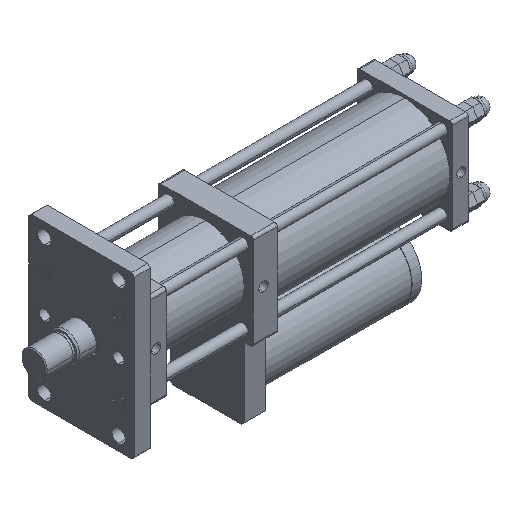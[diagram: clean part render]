
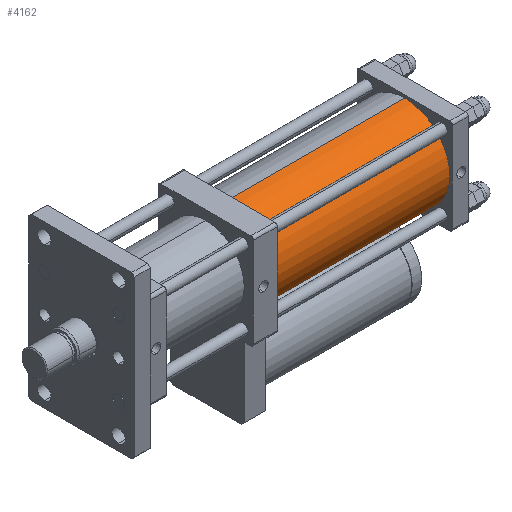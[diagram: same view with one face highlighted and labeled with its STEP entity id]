
A CAD part, isometric view. The second image highlights one B-rep face of the part: STEP entity #4162.
In plain terms, the highlighted cylindrical face has radius 85 mm (diameter 170 mm), a partial arc.
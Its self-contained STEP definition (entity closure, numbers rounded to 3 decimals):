
#18 = DIRECTION ( 'NONE',  ( -1., 0., 0. ) ) ;
#599 = VECTOR ( 'NONE', #18, 1000. ) ;
#834 = VERTEX_POINT ( 'NONE', #1098 ) ;
#1098 = CARTESIAN_POINT ( 'NONE',  ( 370., 0., -85. ) ) ;
#1164 = EDGE_CURVE ( 'NONE', #8887, #834, #1899, .T. ) ;
#1380 = DIRECTION ( 'NONE',  ( 1., 0., 0. ) ) ;
#1600 = CYLINDRICAL_SURFACE ( 'NONE', #7409, 85. ) ;
#1867 = LINE ( 'NONE', #7583, #5297 ) ;
#1899 = CIRCLE ( 'NONE', #2731, 85. ) ;
#2002 = CARTESIAN_POINT ( 'NONE',  ( 701., 0., 85. ) ) ;
#2035 = DIRECTION ( 'NONE',  ( 0., 0., 1. ) ) ;
#2692 = DIRECTION ( 'NONE',  ( -1., 0., 0. ) ) ;
#2731 = AXIS2_PLACEMENT_3D ( 'NONE', #6920, #2802, #7606 ) ;
#2802 = DIRECTION ( 'NONE',  ( 1., 0., 0. ) ) ;
#2810 = CARTESIAN_POINT ( 'NONE',  ( 701., 0., -85. ) ) ;
#2835 = CIRCLE ( 'NONE', #4732, 85. ) ;
#3198 = ORIENTED_EDGE ( 'NONE', *, *, #7287, .T. ) ;
#3505 = ORIENTED_EDGE ( 'NONE', *, *, #1164, .T. ) ;
#3855 = ORIENTED_EDGE ( 'NONE', *, *, #5192, .F. ) ;
#4162 = ADVANCED_FACE ( 'NONE', ( #7073 ), #1600, .T. ) ;
#4732 = AXIS2_PLACEMENT_3D ( 'NONE', #5476, #1380, #6175 ) ;
#5192 = EDGE_CURVE ( 'NONE', #6622, #8245, #2835, .T. ) ;
#5267 = EDGE_CURVE ( 'NONE', #8245, #834, #5634, .T. ) ;
#5297 = VECTOR ( 'NONE', #8273, 1000. ) ;
#5457 = CARTESIAN_POINT ( 'NONE',  ( 701., 0., 0. ) ) ;
#5476 = CARTESIAN_POINT ( 'NONE',  ( 701., 0., 0. ) ) ;
#5634 = LINE ( 'NONE', #2810, #599 ) ;
#6175 = DIRECTION ( 'NONE',  ( 0., 0., -1. ) ) ;
#6622 = VERTEX_POINT ( 'NONE', #2002 ) ;
#6920 = CARTESIAN_POINT ( 'NONE',  ( 370., 0., 0. ) ) ;
#7073 = FACE_OUTER_BOUND ( 'NONE', #7286, .T. ) ;
#7150 = CARTESIAN_POINT ( 'NONE',  ( 370., 0., 85. ) ) ;
#7277 = ORIENTED_EDGE ( 'NONE', *, *, #5267, .F. ) ;
#7286 = EDGE_LOOP ( 'NONE', ( #7277, #3855, #3198, #3505 ) ) ;
#7287 = EDGE_CURVE ( 'NONE', #6622, #8887, #1867, .T. ) ;
#7409 = AXIS2_PLACEMENT_3D ( 'NONE', #5457, #2692, #2035 ) ;
#7583 = CARTESIAN_POINT ( 'NONE',  ( 701., 0., 85. ) ) ;
#7597 = CARTESIAN_POINT ( 'NONE',  ( 701., 0., -85. ) ) ;
#7606 = DIRECTION ( 'NONE',  ( 0., 0., -1. ) ) ;
#8245 = VERTEX_POINT ( 'NONE', #7597 ) ;
#8273 = DIRECTION ( 'NONE',  ( -1., 0., 0. ) ) ;
#8887 = VERTEX_POINT ( 'NONE', #7150 ) ;
